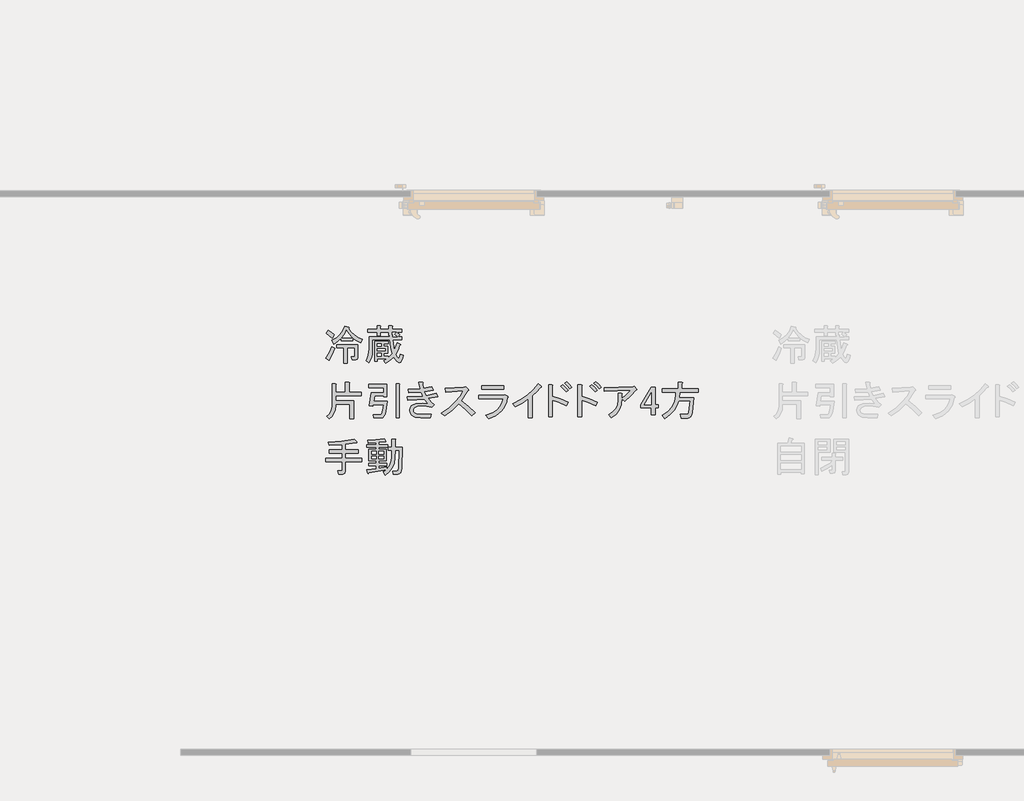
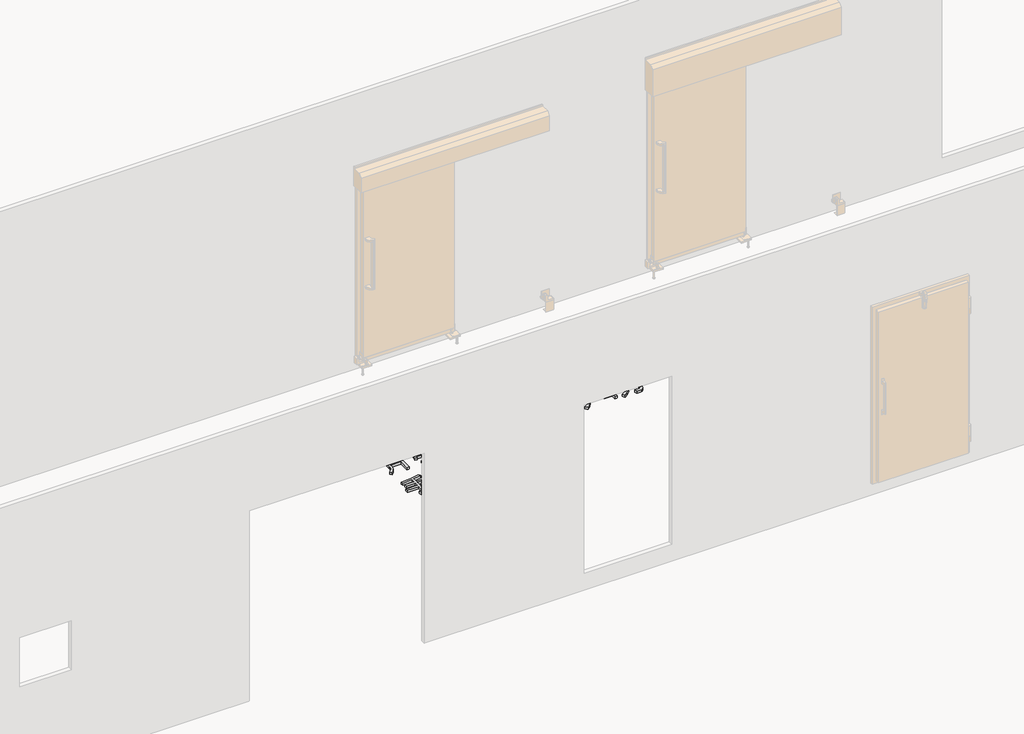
# One storey, part 80 of 117: 1 proxy.
"""IFC4 building model written with IfcOpenShell, lengths in millimetres."""

from ifc_helpers import new_model, si_unit, frame, origin, place, context, project, spatial, polyline, outline, extrude, element, save

model = new_model("IFC4")

# Units and contexts
model_context = context("Model", 3, world=origin())
ifc_project = project(units=[si_unit("LENGTHUNIT", "METRE", prefix="MILLI")], contexts=[model_context])

# Site, building, storey
site = spatial("IfcSite", under=ifc_project)
building = spatial("IfcBuilding", under=site)
storey = spatial("IfcBuildingStorey", under=building, Name="レベル 1", Elevation=500.0)

# Proxy
placement = place(None, origin())
element("IfcBuildingElementProxy", 1, Name="200㎜\u3000MS Pゴシック", ObjectType="200㎜\u3000MS Pゴシック", at=placement, inside=storey, context=model_context, shape_type="SweptSolid", body=[
    extrude(outline(polyline([(-12116.3970532, 22948.5050774), (-12082.7035553, 22967.9021871), (-12056.3378543, 22991.6097656), (-12037.2999504, 23019.6278129), (-12025.5898434, 23051.9563291), (-11994.5544679, 23043.9101206), (-11993.117645, 23040.174381), (-11998.002843, 23038.1628289), (-11979.1804624, 23010.6476696), (-11956.0476131, 22987.874026), (-11928.6042949, 22969.8418981), (-11896.850508, 22956.5512859), (-11908.3450915, 22932.4126605), (-11937.3689149, 22945.9187961), (-11966.9674674, 22965.7469527), (-11966.9674674, 22946.2061607), (-12049.7284688, 22946.2061607), (-12049.7284688, 22964.5974943), (-12074.1544588, 22942.7577856), (-12103.7530113, 22923.2169937), (-12116.3970532, 22948.5050774)]), holes=[polyline([(-11969.2663841, 22968.0458694), (-11995.4165617, 22995.3455052), (-12011.7963432, 23022.0704119), (-12025.5898434, 22993.0465885), (-12046.2800937, 22968.0458694), (-11969.2663841, 22968.0458694)])]), frame((0.0, 0.0, 500.0), z_axis=(0.0, 0.0, 1.0), x_axis=(1.0, 0.0, 0.0)), (0.0, 0.0, 1.0), 25.0),
    extrude(outline(polyline([(-12158.9270122, 22822.0646587), (-12135.9378452, 22861.7209718), (-12117.5465116, 22904.82566), (-12096.8562612, 22892.1816181), (-12114.3855011, 22848.2148362), (-12132.4894701, 22812.8689919), (-12133.0641993, 22806.5469709), (-12137.0873035, 22805.9722417), (-12158.9270122, 22822.0646587)])), frame((0.0, 0.0, 500.0), z_axis=(0.0, 0.0, 1.0), x_axis=(1.0, 0.0, 0.0)), (0.0, 0.0, 1.0), 25.0),
    extrude(outline(polyline([(-12079.6143859, 22897.9289099), (-12079.6143859, 22919.7686186), (-11930.1848002, 22919.7686186), (-11930.1848002, 22825.5130337), (-11934.2079044, 22814.3058148), (-11946.2772171, 22810.5700752), (-11971.5653009, 22810.5700752), (-11976.1631343, 22832.4097838), (-11957.7718006, 22832.4097838), (-11954.3234256, 22833.5592422), (-11953.1739672, 22837.0076172), (-11953.1739672, 22897.9289099), (-12007.1985098, 22897.9289099), (-12007.1985098, 22786.4314498), (-12030.1876768, 22786.4314498), (-12030.1876768, 22897.9289099), (-12079.6143859, 22897.9289099)])), frame((0.0, 0.0, 500.0), z_axis=(0.0, 0.0, 1.0), x_axis=(1.0, 0.0, 0.0)), (0.0, 0.0, 1.0), 25.0),
    extrude(outline(polyline([(-12141.685137, 23022.0704119), (-12120.9948866, 23009.1390055), (-12098.0057196, 22988.7361197), (-12114.0981365, 22965.7469527), (-12155.4786372, 23000.2307032), (-12141.685137, 23022.0704119)])), frame((0.0, 0.0, 500.0), z_axis=(0.0, 0.0, 1.0), x_axis=(1.0, 0.0, 0.0)), (0.0, 0.0, 1.0), 25.0),
    extrude(outline(polyline([(-11711.7877133, 22826.6624921), (-11685.3501712, 22853.1000342), (-11695.4079318, 22900.8025558), (-11700.2931298, 22954.2523692), (-11825.5840901, 22954.2523692), (-11825.5840901, 22879.5375763), (-11827.1645954, 22853.5310811), (-11831.9061111, 22829.536138), (-11839.8086373, 22807.552747), (-11850.8721739, 22787.5809081), (-11871.5624242, 22803.673325), (-11861.5046636, 22821.9209764), (-11854.3205489, 22842.1801798), (-11848.5732572, 22888.7332431), (-11848.5732572, 22976.0920778), (-11701.4425881, 22976.0920778), (-11701.4425881, 22987.5866614), (-11708.3393382, 22987.5866614), (-11708.3393382, 23005.977995), (-11768.1111725, 23005.977995), (-11768.1111725, 22984.1382863), (-11791.1003396, 22984.1382863), (-11791.1003396, 23005.977995), (-11860.0678407, 23005.977995), (-11860.0678407, 23027.8177037), (-11791.1003396, 23027.8177037), (-11791.1003396, 23053.1057874), (-11769.2606309, 23053.1057874), (-11764.3754329, 23050.8068707), (-11768.1111725, 23046.2090373), (-11768.1111725, 23027.8177037), (-11708.3393382, 23027.8177037), (-11708.3393382, 23053.1057874), (-11686.4996295, 23053.1057874), (-11681.6144316, 23050.8068707), (-11685.3501712, 23046.2090373), (-11685.3501712, 23027.8177037), (-11615.2332117, 23027.8177037), (-11615.2332117, 23005.977995), (-11652.015879, 23005.977995), (-11629.0267119, 22989.8855781), (-11642.8202122, 22976.0920778), (-11614.0837534, 22976.0920778), (-11614.0837534, 22954.2523692), (-11678.4534211, 22954.2523692), (-11669.2577543, 22877.2386596), (-11649.7169623, 22932.4126605), (-11626.7277952, 22922.0675353), (-11623.2794202, 22918.3317957), (-11629.0267119, 22916.3202435), (-11642.245483, 22882.4112222), (-11658.9126291, 22849.6516591), (-11646.8433164, 22828.099315), (-11635.9234621, 22820.9152003), (-11631.9003578, 22824.3635754), (-11629.0267119, 22834.7087005), (-11626.7277952, 22849.6516591), (-11604.8880866, 22841.6054507), (-11608.3364616, 22824.3635754), (-11617.819493, 22798.5007625), (-11624.5007197, 22792.0350592), (-11632.475087, 22789.8798248), (-11642.3891653, 22792.394265), (-11652.5906082, 22799.9375854), (-11673.8555877, 22830.1108671), (-11703.4541402, 22802.5238667), (-11730.1790469, 22784.1325331), (-11746.2714639, 22804.8227834), (-11723.2822968, 22818.6162836), (-11789.9508812, 22818.6162836), (-11789.9508812, 22801.3744083), (-11809.4916732, 22801.3744083), (-11809.4916732, 22942.7577856), (-11710.6382549, 22942.7577856), (-11710.6382549, 22924.366452), (-11743.9725471, 22924.366452), (-11743.9725471, 22908.2740351), (-11715.2360883, 22908.2740351), (-11715.2360883, 22855.3989509), (-11743.9725471, 22855.3989509), (-11743.9725471, 22837.0076172), (-11711.7877133, 22837.0076172), (-11711.7877133, 22826.6624921)]), holes=[polyline([(-11680.7523378, 22988.7361197), (-11675.8671398, 22986.1498384), (-11679.6028794, 22982.988828), (-11679.6028794, 22976.0920778), (-11646.2685872, 22976.0920778), (-11669.2577543, 22993.3339531), (-11656.6137124, 23005.977995), (-11685.3501712, 23005.977995), (-11685.3501712, 22988.7361197), (-11680.7523378, 22988.7361197)]), polyline([(-11789.9508812, 22908.2740351), (-11763.5133391, 22908.2740351), (-11763.5133391, 22924.366452), (-11789.9508812, 22924.366452), (-11789.9508812, 22908.2740351)]), polyline([(-11789.9508812, 22873.7902845), (-11734.7768803, 22873.7902845), (-11734.7768803, 22889.8827014), (-11789.9508812, 22889.8827014), (-11789.9508812, 22873.7902845)]), polyline([(-11789.9508812, 22837.0076172), (-11763.5133391, 22837.0076172), (-11763.5133391, 22855.3989509), (-11789.9508812, 22855.3989509), (-11789.9508812, 22837.0076172)])]), frame((0.0, 0.0, 500.0), z_axis=(0.0, 0.0, 1.0), x_axis=(1.0, 0.0, 0.0)), (0.0, 0.0, 1.0), 25.0),
    extrude(outline(polyline([(-12091.1089695, 22637.0133705), (-12085.0743131, 22633.5649954), (-12089.9595111, 22627.8177037), (-12089.9595111, 22579.5404529), (-12018.6930933, 22579.5404529), (-12018.6930933, 22648.507954), (-11993.4050095, 22648.507954), (-11987.3703532, 22645.059579), (-11992.2555512, 22639.3122872), (-11992.2555512, 22579.5404529), (-11907.1956331, 22579.5404529), (-11907.1956331, 22554.2523692), (-12089.9595111, 22554.2523692), (-12089.9595111, 22517.4697019), (-11960.0707173, 22517.4697019), (-11960.0707173, 22388.7303665), (-11986.5082594, 22388.7303665), (-11986.5082594, 22492.1816181), (-12089.9595111, 22492.1816181), (-12089.9595111, 22480.6870346), (-12092.6894747, 22453.7466045), (-12100.8793655, 22429.2487734), (-12114.5291834, 22407.1935412), (-12133.6389285, 22387.5809081), (-12152.0302621, 22405.9722417), (-12134.9320691, 22421.5617706), (-12122.7190741, 22439.5938985), (-12115.3912772, 22460.0686254), (-12112.9486782, 22482.9859513), (-12112.9486782, 22637.0133705), (-12091.1089695, 22637.0133705)])), frame((0.0, 0.0, 500.0), z_axis=(0.0, 0.0, 1.0), x_axis=(1.0, 0.0, 0.0)), (0.0, 0.0, 1.0), 25.0),
    extrude(outline(polyline([(-11719.8339218, 22511.7224101), (-11729.0295886, 22441.8928152), (-11735.3516095, 22419.2628539), (-11742.8230888, 22404.8227834), (-11753.4555786, 22397.0639395), (-11769.2606309, 22394.4776582), (-11815.238965, 22394.4776582), (-11818.68734, 22416.3173669), (-11776.157381, 22416.3173669), (-11765.5248912, 22418.328919), (-11758.9155057, 22424.3635754), (-11750.8692973, 22448.2148362), (-11745.1220055, 22489.8827014), (-11822.1357151, 22489.8827014), (-11824.4346318, 22478.3881179), (-11848.5732572, 22481.836493), (-11832.4808403, 22574.9426195), (-11746.2714639, 22574.9426195), (-11746.2714639, 22611.7252868), (-11852.0216322, 22611.7252868), (-11852.0216322, 22633.5649954), (-11723.2822968, 22633.5649954), (-11723.2822968, 22547.355619), (-11746.2714639, 22547.355619), (-11746.2714639, 22553.1029108), (-11810.6411316, 22553.1029108), (-11817.5378817, 22511.7224101), (-11719.8339218, 22511.7224101)])), frame((0.0, 0.0, 500.0), z_axis=(0.0, 0.0, 1.0), x_axis=(1.0, 0.0, 0.0)), (0.0, 0.0, 1.0), 25.0),
    extrude(outline(polyline([(-11633.6245454, 22396.7765749), (-11656.6137124, 22396.7765749), (-11656.6137124, 22637.0133705), (-11634.7740037, 22637.0133705), (-11629.8888057, 22634.7144538), (-11633.6245454, 22630.1166204), (-11633.6245454, 22396.7765749)])), frame((0.0, 0.0, 500.0), z_axis=(0.0, 0.0, 1.0), x_axis=(1.0, 0.0, 0.0)), (0.0, 0.0, 1.0), 25.0),
    extrude(outline(polyline([(-11453.1595841, 22582.988828), (-11439.3660839, 22554.2523692), (-11366.9502077, 22570.3447861), (-11356.6050825, 22546.2061607), (-11426.722042, 22533.5621188), (-11406.8938854, 22511.147681), (-11381.8931663, 22489.8827014), (-11401.4339582, 22470.3419095), (-11438.5039901, 22477.2386596), (-11466.9530843, 22479.5375763), (-11504.8852099, 22476.0892012), (-11517.8166164, 22471.7787324), (-11526.7249186, 22465.7440761), (-11532.759575, 22457.410503), (-11534.7711271, 22448.5022008), (-11533.0469395, 22438.1570756), (-11527.874377, 22430.1108671), (-11510.3451371, 22423.214117), (-11476.1487511, 22420.9152003), (-11406.0317916, 22420.9152003), (-11410.6296251, 22395.6271166), (-11480.7465845, 22395.6271166), (-11519.8281685, 22400.22495), (-11534.1963979, 22405.9722417), (-11545.1162522, 22414.0184502), (-11555.4613774, 22429.8235025), (-11558.9097525, 22449.6516591), (-11555.748742, 22465.7440761), (-11546.2657106, 22479.5375763), (-11533.9090333, 22488.0866728), (-11516.3797934, 22494.1931703), (-11465.803626, 22499.0783683), (-11424.4231253, 22495.6299932), (-11453.1595841, 22528.9642854), (-11509.7704079, 22523.7917228), (-11571.5537943, 22522.0675353), (-11575.0021694, 22546.2061607), (-11518.103981, 22546.7808899), (-11464.6541676, 22550.8039941), (-11477.2982095, 22579.5404529), (-11565.8065026, 22576.0920778), (-11568.1054193, 22599.0812449), (-11483.0455012, 22601.3801616), (-11492.2411681, 22648.507954), (-11466.9530843, 22648.507954), (-11460.918428, 22645.059579), (-11465.803626, 22639.3122872), (-11460.0563342, 22604.8285366), (-11399.1350415, 22616.3231202), (-11391.0888331, 22593.3339531), (-11453.1595841, 22582.988828)])), frame((0.0, 0.0, 500.0), z_axis=(0.0, 0.0, 1.0), x_axis=(1.0, 0.0, 0.0)), (0.0, 0.0, 1.0), 25.0),
    extrude(outline(polyline([(-11188.7381848, 22517.4697019), (-11139.5988402, 22476.6639304), (-11091.0342249, 22430.1108671), (-11114.0233919, 22410.5700752), (-11161.4385489, 22457.1231384), (-11207.1295184, 22495.6299932), (-11255.1194046, 22449.9390237), (-11309.4313117, 22409.4206168), (-11331.2710204, 22428.9614088), (-11275.8096549, 22468.6177219), (-11231.2681438, 22508.2740351), (-11197.646487, 22547.9303482), (-11174.9446846, 22587.5866614), (-11300.2356449, 22579.5404529), (-11303.68402, 22607.1274534), (-11170.3468511, 22612.8747451), (-11156.5533509, 22616.3231202), (-11138.1620173, 22597.9317865), (-11135.2883714, 22591.322401), (-11142.7598507, 22587.5866614), (-11188.7381848, 22517.4697019)])), frame((0.0, 0.0, 500.0), z_axis=(0.0, 0.0, 1.0), x_axis=(1.0, 0.0, 0.0)), (0.0, 0.0, 1.0), 25.0),
    extrude(outline(polyline([(-11014.7101903, 22411.7195335), (-10965.0679577, 22430.039026), (-10944.8267145, 22442.1622195), (-10927.6387201, 22456.2610446), (-10913.5039744, 22472.3355013), (-10902.4224775, 22490.3855895), (-10894.3942293, 22510.4113092), (-10889.4192299, 22532.4126605), (-11064.1368994, 22532.4126605), (-11064.1368994, 22557.7007442), (-10888.2697716, 22557.7007442), (-10877.9246464, 22561.1491193), (-10857.234396, 22548.5050774), (-10854.3607502, 22543.0451502), (-10859.5333128, 22538.1599522), (-10865.6577705, 22510.6807135), (-10874.8354771, 22485.7159149), (-10887.0664323, 22463.2655565), (-10902.3506364, 22443.3296382), (-10920.6880891, 22425.90816), (-10942.0787907, 22411.001122), (-10966.5227409, 22398.6085242), (-10994.0199399, 22388.7303665), (-11014.7101903, 22411.7195335)])), frame((0.0, 0.0, 500.0), z_axis=(0.0, 0.0, 1.0), x_axis=(1.0, 0.0, 0.0)), (0.0, 0.0, 1.0), 25.0),
    extrude(outline(polyline([(-10884.8213965, 22597.9317865), (-11043.4466491, 22597.9317865), (-11043.4466491, 22623.2198703), (-10884.8213965, 22623.2198703), (-10884.8213965, 22597.9317865)])), frame((0.0, 0.0, 500.0), z_axis=(0.0, 0.0, 1.0), x_axis=(1.0, 0.0, 0.0)), (0.0, 0.0, 1.0), 25.0),
    extrude(outline(polyline([(-10822.3368405, 22496.7794516), (-10765.6541755, 22524.6538166), (-10716.2993075, 22557.7007442), (-10674.2722365, 22595.9202344), (-10639.5729625, 22639.3122872), (-10617.7332538, 22620.9209536), (-10615.1469725, 22614.8862972), (-10625.7794623, 22610.5758284), (-10650.7801814, 22581.552005), (-10682.1029215, 22551.9534525), (-10682.1029215, 22395.6271166), (-10708.5404636, 22395.6271166), (-10708.5404636, 22530.1137438), (-10752.219881, 22500.5151912), (-10802.7960485, 22473.7902845), (-10822.3368405, 22496.7794516)])), frame((0.0, 0.0, 500.0), z_axis=(0.0, 0.0, 1.0), x_axis=(1.0, 0.0, 0.0)), (0.0, 0.0, 1.0), 25.0),
    extrude(outline(polyline([(-10439.6591659, 22581.8393696), (-10459.1999579, 22603.6790783), (-10478.7407499, 22620.9209536), (-10463.7977913, 22632.4155371), (-10444.2569993, 22615.1736618), (-10424.7162073, 22593.3339531), (-10439.6591659, 22581.8393696)])), frame((0.0, 0.0, 500.0), z_axis=(0.0, 0.0, 1.0), x_axis=(1.0, 0.0, 0.0)), (0.0, 0.0, 1.0), 25.0),
    extrude(outline(polyline([(-10412.0721655, 22603.6790783), (-10429.0266762, 22622.9325057), (-10450.0042911, 22641.6112039), (-10435.0613325, 22653.1057874), (-10415.8079051, 22636.7260059), (-10397.1292069, 22615.1736618), (-10412.0721655, 22603.6790783)])), frame((0.0, 0.0, 500.0), z_axis=(0.0, 0.0, 1.0), x_axis=(1.0, 0.0, 0.0)), (0.0, 0.0, 1.0), 25.0),
    extrude(outline(polyline([(-10437.3602492, 22480.6870346), (-10492.8216147, 22506.5498475), (-10537.3631258, 22522.0675353), (-10537.3631258, 22402.5238667), (-10563.8006679, 22402.5238667), (-10563.8006679, 22632.4155371), (-10540.8115009, 22632.4155371), (-10533.052657, 22629.5418912), (-10537.3631258, 22623.2198703), (-10537.3631258, 22550.8039941), (-10480.752302, 22531.8379313), (-10423.566749, 22507.1245767), (-10437.3602492, 22480.6870346)])), frame((0.0, 0.0, 500.0), z_axis=(0.0, 0.0, 1.0), x_axis=(1.0, 0.0, 0.0)), (0.0, 0.0, 1.0), 25.0),
    extrude(outline(polyline([(-10228.4346991, 22480.6870346), (-10283.8960646, 22506.5498475), (-10328.4375758, 22522.0675353), (-10328.4375758, 22402.5238667), (-10354.8751179, 22402.5238667), (-10354.8751179, 22632.4155371), (-10331.8859508, 22632.4155371), (-10324.127107, 22629.5418912), (-10328.4375758, 22623.2198703), (-10328.4375758, 22550.8039941), (-10271.8267519, 22531.8379313), (-10214.6411989, 22507.1245767), (-10228.4346991, 22480.6870346)])), frame((0.0, 0.0, 500.0), z_axis=(0.0, 0.0, 1.0), x_axis=(1.0, 0.0, 0.0)), (0.0, 0.0, 1.0), 25.0),
    extrude(outline(polyline([(-10230.7336159, 22581.8393696), (-10250.2744078, 22603.6790783), (-10269.8151998, 22620.9209536), (-10254.8722412, 22632.4155371), (-10235.3314493, 22615.1736618), (-10215.7906573, 22593.3339531), (-10230.7336159, 22581.8393696)])), frame((0.0, 0.0, 500.0), z_axis=(0.0, 0.0, 1.0), x_axis=(1.0, 0.0, 0.0)), (0.0, 0.0, 1.0), 25.0),
    extrude(outline(polyline([(-10203.1466154, 22603.6790783), (-10220.1011261, 22622.9325057), (-10241.078741, 22641.6112039), (-10226.1357824, 22653.1057874), (-10206.882355, 22636.7260059), (-10188.2036568, 22615.1736618), (-10203.1466154, 22603.6790783)])), frame((0.0, 0.0, 500.0), z_axis=(0.0, 0.0, 1.0), x_axis=(1.0, 0.0, 0.0)), (0.0, 0.0, 1.0), 25.0),
    extrude(outline(polyline([(-10040.1993994, 22530.1137438), (-10044.0069802, 22488.8769254), (-10057.7286393, 22452.525305), (-10081.3643766, 22421.0588826), (-10114.9141923, 22394.4776582), (-10134.4549843, 22416.3173669), (-10104.7845906, 22436.5765704), (-10083.5914522, 22460.5715135), (-10070.8755692, 22488.3021962), (-10066.6369415, 22519.7686186), (-10066.6369415, 22569.1953277), (-10042.4983161, 22569.1953277), (-10036.7510244, 22566.6090464), (-10040.1993994, 22561.1491193), (-10040.1993994, 22531.2632021), (-10003.7040967, 22562.011213), (-9976.9791901, 22592.1844948), (-10164.3409014, 22585.2877447), (-10166.6398181, 22611.7252868), (-9957.4383981, 22617.4725785), (-9949.3921896, 22619.7714952), (-9932.1503143, 22599.0812449), (-9931.8629497, 22595.9202344), (-9937.8976061, 22595.6328698), (-9975.8297317, 22552.240817), (-10020.6586074, 22511.7224101), (-10040.1993994, 22530.1137438)])), frame((0.0, 0.0, 500.0), z_axis=(0.0, 0.0, 1.0), x_axis=(1.0, 0.0, 0.0)), (0.0, 0.0, 1.0), 25.0),
    extrude(outline(polyline([(-9828.2392793, 22615.1736618), (-9801.8017372, 22615.1736618), (-9801.8017372, 22488.7332431), (-9777.6631118, 22488.7332431), (-9777.6631118, 22466.8935344), (-9801.8017372, 22466.8935344), (-9801.8017372, 22416.3173669), (-9828.2392793, 22416.3173669), (-9828.2392793, 22466.8935344), (-9905.2529889, 22466.8935344), (-9905.2529889, 22489.8827014), (-9828.2392793, 22615.1736618)]), holes=[polyline([(-9828.2392793, 22572.6437028), (-9879.9649051, 22488.7332431), (-9828.2392793, 22488.7332431), (-9828.2392793, 22572.6437028)])]), frame((0.0, 0.0, 500.0), z_axis=(0.0, 0.0, 1.0), x_axis=(1.0, 0.0, 0.0)), (0.0, 0.0, 1.0), 25.0),
    extrude(outline(polyline([(-9630.5324427, 22538.1599522), (-9523.632816, 22538.1599522), (-9535.1273995, 22434.7087005), (-9538.9349803, 22416.6047315), (-9545.7598893, 22403.673325), (-9555.6021264, 22395.9144812), (-9568.4616917, 22393.3281999), (-9614.4400258, 22393.3281999), (-9620.1873176, 22418.6162836), (-9570.7606084, 22418.6162836), (-9564.1512229, 22422.9267524), (-9560.4154833, 22435.8581589), (-9551.2198165, 22516.3202435), (-9633.9808178, 22516.3202435), (-9645.7627659, 22480.8307169), (-9666.1656517, 22447.9274716), (-9695.1894751, 22417.6105076), (-9732.8342361, 22389.8798248), (-9748.926653, 22414.0184502), (-9709.342181, 22440.2404689), (-9680.2465165, 22472.9281908), (-9661.6396594, 22512.0816159), (-9653.5216098, 22557.7007442), (-9652.3721514, 22578.3909946), (-9748.926653, 22578.3909946), (-9748.926653, 22603.6790783), (-9636.2797345, 22603.6790783), (-9636.2797345, 22649.6574124), (-9610.9916508, 22649.6574124), (-9604.9569944, 22646.2090373), (-9609.8421924, 22640.4617456), (-9609.8421924, 22603.6790783), (-9493.7468989, 22603.6790783), (-9493.7468989, 22578.3909946), (-9625.9346093, 22578.3909946), (-9630.5324427, 22538.1599522)])), frame((0.0, 0.0, 500.0), z_axis=(0.0, 0.0, 1.0), x_axis=(1.0, 0.0, 0.0)), (0.0, 0.0, 1.0), 25.0),
    extrude(outline(polyline([(-12141.685137, 22219.7714952), (-12045.418, 22226.0935162), (-11954.3234256, 22242.7606623), (-11939.380467, 22224.3693286), (-11936.7941857, 22217.4725785), (-11945.1277588, 22217.4725785), (-12018.6930933, 22205.977995), (-12018.6930933, 22164.5974943), (-11927.8858835, 22164.5974943), (-11927.8858835, 22142.7577856), (-12018.6930933, 22142.7577856), (-12018.6930933, 22103.6762017), (-11903.7472581, 22103.6762017), (-11903.7472581, 22081.836493), (-12018.6930933, 22081.836493), (-12018.6930933, 22012.8689919), (-12023.5782913, 21997.3513041), (-12029.6847888, 21993.4718822), (-12038.2338853, 21992.1787415), (-12068.1198024, 21992.1787415), (-12073.8670942, 22017.4668253), (-12045.1306354, 22017.4668253), (-12041.6822603, 22020.9152003), (-12041.6822603, 22081.836493), (-12158.9270122, 22081.836493), (-12158.9270122, 22103.6762017), (-12041.6822603, 22103.6762017), (-12041.6822603, 22142.7577856), (-12134.7883868, 22142.7577856), (-12134.7883868, 22164.5974943), (-12041.6822603, 22164.5974943), (-12041.6822603, 22202.5296199), (-12135.9378452, 22197.9317865), (-12141.685137, 22219.7714952)])), frame((0.0, 0.0, 500.0), z_axis=(0.0, 0.0, 1.0), x_axis=(1.0, 0.0, 0.0)), (0.0, 0.0, 1.0), 25.0),
    extrude(outline(polyline([(-11748.5703806, 22007.1217001), (-11724.4317552, 22024.3635754), (-11853.1710906, 22000.22495), (-11855.1826427, 21995.339752), (-11858.9183824, 21996.7765749), (-11865.8151325, 22022.0646587), (-11799.146548, 22030.1108671), (-11799.146548, 22050.8011175), (-11853.1710906, 22050.8011175), (-11853.1710906, 22069.1924511), (-11799.146548, 22069.1924511), (-11799.146548, 22086.4343264), (-11825.5840901, 22086.4343264), (-11850.8721739, 22086.4343264), (-11850.8721739, 22168.0458694), (-11799.146548, 22168.0458694), (-11799.146548, 22184.1382863), (-11865.8151325, 22184.1382863), (-11865.8151325, 22202.5296199), (-11799.146548, 22202.5296199), (-11799.146548, 22216.3231202), (-11856.6194656, 22214.0242035), (-11860.0678407, 22233.5649954), (-11801.7328293, 22236.7260059), (-11739.3747137, 22246.2090373), (-11729.0295886, 22226.6682453), (-11729.0295886, 22222.6451411), (-11735.9263387, 22224.3693286), (-11779.6057561, 22218.6220369), (-11779.6057561, 22202.5296199), (-11716.3855467, 22202.5296199), (-11716.3855467, 22184.1382863), (-11779.6057561, 22184.1382863), (-11779.6057561, 22168.0458694), (-11726.7306719, 22168.0458694), (-11726.7306719, 22086.4343264), (-11779.6057561, 22086.4343264), (-11779.6057561, 22069.1924511), (-11722.1328385, 22069.1924511), (-11722.1328385, 22050.8011175), (-11779.6057561, 22050.8011175), (-11779.6057561, 22033.5592422), (-11722.1328385, 22042.754909), (-11722.1328385, 22026.6624921), (-11707.4772445, 22043.5451616), (-11696.8447547, 22064.3072531), (-11690.2353692, 22088.9487665), (-11687.6490879, 22117.4697019), (-11686.4996295, 22162.2985776), (-11714.08663, 22162.2985776), (-11714.08663, 22184.1382863), (-11686.4996295, 22184.1382863), (-11686.4996295, 22242.7606623), (-11664.6599209, 22242.7606623), (-11659.7747229, 22240.4617456), (-11663.5104625, 22235.8639122), (-11663.5104625, 22184.1382863), (-11612.934295, 22184.1382863), (-11615.2332117, 22032.4097838), (-11617.5321284, 22014.3058148), (-11623.2794202, 22001.3744083), (-11632.475087, 21993.6155645), (-11645.1191289, 21991.0292832), (-11676.1545044, 21991.0292832), (-11679.6028794, 22012.8689919), (-11653.1653373, 22012.8689919), (-11647.0588398, 22014.3776559), (-11642.5328476, 22018.9036482), (-11638.2223788, 22037.0076172), (-11634.7740037, 22162.2985776), (-11663.5104625, 22162.2985776), (-11664.6599209, 22108.2740351), (-11669.4732777, 22070.8447975), (-11682.7638899, 22037.869711), (-11704.5317574, 22009.3487757), (-11734.7768803, 21985.2819914), (-11748.5703806, 22007.1217001)]), holes=[polyline([(-11779.6057561, 22120.9180769), (-11779.6057561, 22100.2278266), (-11746.2714639, 22100.2278266), (-11746.2714639, 22120.9180769), (-11779.6057561, 22120.9180769)]), polyline([(-11779.6057561, 22154.2523692), (-11779.6057561, 22134.7115772), (-11746.2714639, 22134.7115772), (-11746.2714639, 22154.2523692), (-11779.6057561, 22154.2523692)]), polyline([(-11831.3313819, 22120.9180769), (-11831.3313819, 22100.2278266), (-11799.146548, 22100.2278266), (-11799.146548, 22120.9180769), (-11831.3313819, 22120.9180769)]), polyline([(-11831.3313819, 22154.2523692), (-11831.3313819, 22134.7115772), (-11799.146548, 22134.7115772), (-11799.146548, 22154.2523692), (-11831.3313819, 22154.2523692)])]), frame((0.0, 0.0, 500.0), z_axis=(0.0, 0.0, 1.0), x_axis=(1.0, 0.0, 0.0)), (0.0, 0.0, 1.0), 25.0),
])

save(model, "model.ifc")
